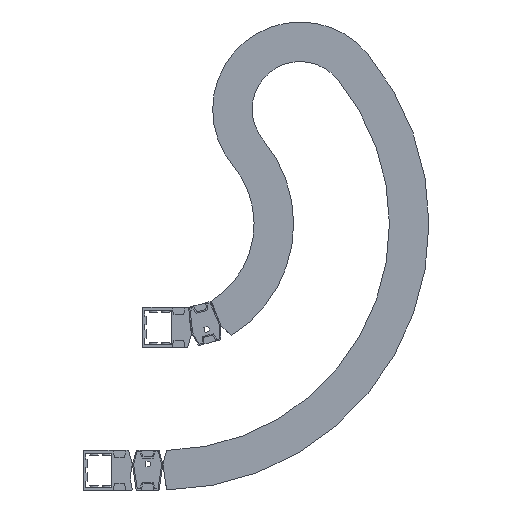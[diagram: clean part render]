
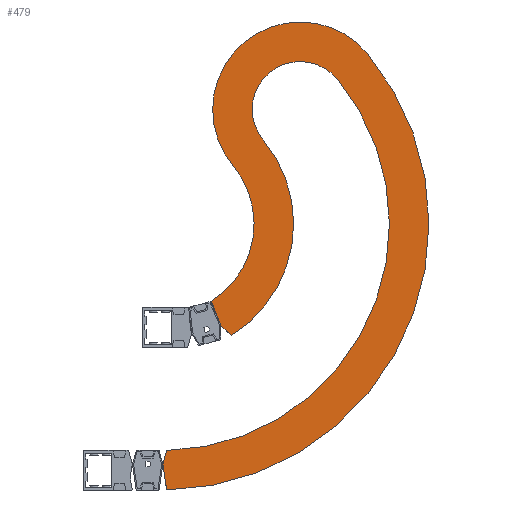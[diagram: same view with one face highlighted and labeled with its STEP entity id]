
A CAD part, front view. The second image highlights one B-rep face of the part: STEP entity #479.
In plain terms, the highlighted planar face has unit normal (0, -1, 0).
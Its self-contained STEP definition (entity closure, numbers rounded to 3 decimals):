
#479 = ADVANCED_FACE( '', ( #1250 ), #1251, .F. );
#1250 = FACE_OUTER_BOUND( '', #2378, .T. );
#1251 = PLANE( '', #2379 );
#2378 = EDGE_LOOP( '', ( #3548, #3549, #3550, #3551, #3552, #3553, #3554, #3555, #3556, #3557 ) );
#2379 = AXIS2_PLACEMENT_3D( '', #3558, #3559, #3560 );
#3548 = ORIENTED_EDGE( '', *, *, #6977, .F. );
#3549 = ORIENTED_EDGE( '', *, *, #6978, .F. );
#3550 = ORIENTED_EDGE( '', *, *, #6979, .F. );
#3551 = ORIENTED_EDGE( '', *, *, #6980, .T. );
#3552 = ORIENTED_EDGE( '', *, *, #6981, .F. );
#3553 = ORIENTED_EDGE( '', *, *, #6982, .F. );
#3554 = ORIENTED_EDGE( '', *, *, #6983, .F. );
#3555 = ORIENTED_EDGE( '', *, *, #6984, .T. );
#3556 = ORIENTED_EDGE( '', *, *, #6985, .T. );
#3557 = ORIENTED_EDGE( '', *, *, #6986, .F. );
#3558 = CARTESIAN_POINT( '', ( 0., -69., 0. ) );
#3559 = DIRECTION( '', ( 0., 1., 0. ) );
#3560 = DIRECTION( '', ( 0., 0., 1. ) );
#6977 = EDGE_CURVE( '', #8393, #8394, #8395, .T. );
#6978 = EDGE_CURVE( '', #8396, #8393, #8397, .T. );
#6979 = EDGE_CURVE( '', #8398, #8396, #8399, .T. );
#6980 = EDGE_CURVE( '', #8398, #8400, #8401, .T. );
#6981 = EDGE_CURVE( '', #8402, #8400, #8403, .T. );
#6982 = EDGE_CURVE( '', #8404, #8402, #8405, .T. );
#6983 = EDGE_CURVE( '', #8406, #8404, #8407, .T. );
#6984 = EDGE_CURVE( '', #8406, #8408, #8409, .T. );
#6985 = EDGE_CURVE( '', #8408, #8410, #8411, .T. );
#6986 = EDGE_CURVE( '', #8394, #8410, #8412, .T. );
#8393 = VERTEX_POINT( '', #10476 );
#8394 = VERTEX_POINT( '', #10477 );
#8395 = LINE( '', #10478, #10479 );
#8396 = VERTEX_POINT( '', #10480 );
#8397 = CIRCLE( '', #10481, 350. );
#8398 = VERTEX_POINT( '', #10482 );
#8399 = CIRCLE( '', #10483, 115. );
#8400 = VERTEX_POINT( '', #10484 );
#8401 = CIRCLE( '', #10485, 120. );
#8402 = VERTEX_POINT( '', #10486 );
#8403 = LINE( '', #10487, #10488 );
#8404 = VERTEX_POINT( '', #10489 );
#8405 = LINE( '', #10490, #10491 );
#8406 = VERTEX_POINT( '', #10492 );
#8407 = CIRCLE( '', #10493, 172. );
#8408 = VERTEX_POINT( '', #10494 );
#8409 = CIRCLE( '', #10495, 63. );
#8410 = VERTEX_POINT( '', #10496 );
#8411 = CIRCLE( '', #10497, 298. );
#8412 = LINE( '', #10498, #10499 );
#10476 = CARTESIAN_POINT( '', ( 4.975, -69., -349.965 ) );
#10477 = CARTESIAN_POINT( '', ( 0., -69., -316. ) );
#10478 = CARTESIAN_POINT( '', ( 4.975, -69., -349.965 ) );
#10479 = VECTOR( '', #13292, 1000. );
#10480 = CARTESIAN_POINT( '', ( 268.862, -69., 224.083 ) );
#10481 = AXIS2_PLACEMENT_3D( '', #13293, #13294, #13295 );
#10482 = CARTESIAN_POINT( '', ( 92.181, -69., 76.828 ) );
#10483 = AXIS2_PLACEMENT_3D( '', #13296, #13297, #13298 );
#10484 = CARTESIAN_POINT( '', ( 63.857, -69., -101.599 ) );
#10485 = AXIS2_PLACEMENT_3D( '', #13299, #13300, #13301 );
#10486 = CARTESIAN_POINT( '', ( 76.45, -69., -133.684 ) );
#10487 = CARTESIAN_POINT( '', ( 76.45, -69., -133.684 ) );
#10488 = VECTOR( '', #13302, 1000. );
#10489 = CARTESIAN_POINT( '', ( 89.657, -69., -146.784 ) );
#10490 = CARTESIAN_POINT( '', ( 89.657, -69., -146.784 ) );
#10491 = VECTOR( '', #13303, 1000. );
#10492 = CARTESIAN_POINT( '', ( 132.127, -69., 110.121 ) );
#10493 = AXIS2_PLACEMENT_3D( '', #13304, #13305, #13306 );
#10494 = CARTESIAN_POINT( '', ( 228.917, -69., 190.79 ) );
#10495 = AXIS2_PLACEMENT_3D( '', #13307, #13308, #13309 );
#10496 = CARTESIAN_POINT( '', ( 4.992, -69., -297.958 ) );
#10497 = AXIS2_PLACEMENT_3D( '', #13310, #13311, #13312 );
#10498 = CARTESIAN_POINT( '', ( 0., -69., -316. ) );
#10499 = VECTOR( '', #13313, 1000. );
#13292 = DIRECTION( '', ( -0.145, 0., 0.989 ) );
#13293 = CARTESIAN_POINT( '', ( 0., -69., 0. ) );
#13294 = DIRECTION( '', ( 0., 1., 0. ) );
#13295 = DIRECTION( '', ( 1., 0., 0. ) );
#13296 = CARTESIAN_POINT( '', ( 180.522, -69., 150.456 ) );
#13297 = DIRECTION( '', ( 0., 1., 0. ) );
#13298 = DIRECTION( '', ( 1., 0., 0. ) );
#13299 = CARTESIAN_POINT( '', ( 0., -69., 0. ) );
#13300 = DIRECTION( '', ( 0., 1., 0. ) );
#13301 = DIRECTION( '', ( 1., 0., 0. ) );
#13302 = DIRECTION( '', ( -0.365, 0., 0.931 ) );
#13303 = DIRECTION( '', ( -0.71, 0., 0.704 ) );
#13304 = CARTESIAN_POINT( '', ( 0., -69., 0. ) );
#13305 = DIRECTION( '', ( 0., 1., 0. ) );
#13306 = DIRECTION( '', ( 1., 0., 0. ) );
#13307 = CARTESIAN_POINT( '', ( 180.522, -69., 150.456 ) );
#13308 = DIRECTION( '', ( 0., 1., 0. ) );
#13309 = DIRECTION( '', ( 1., 0., 0. ) );
#13310 = CARTESIAN_POINT( '', ( 0., -69., 0. ) );
#13311 = DIRECTION( '', ( 0., 1., 0. ) );
#13312 = DIRECTION( '', ( 1., 0., 0. ) );
#13313 = DIRECTION( '', ( 0.267, 0., 0.964 ) );
